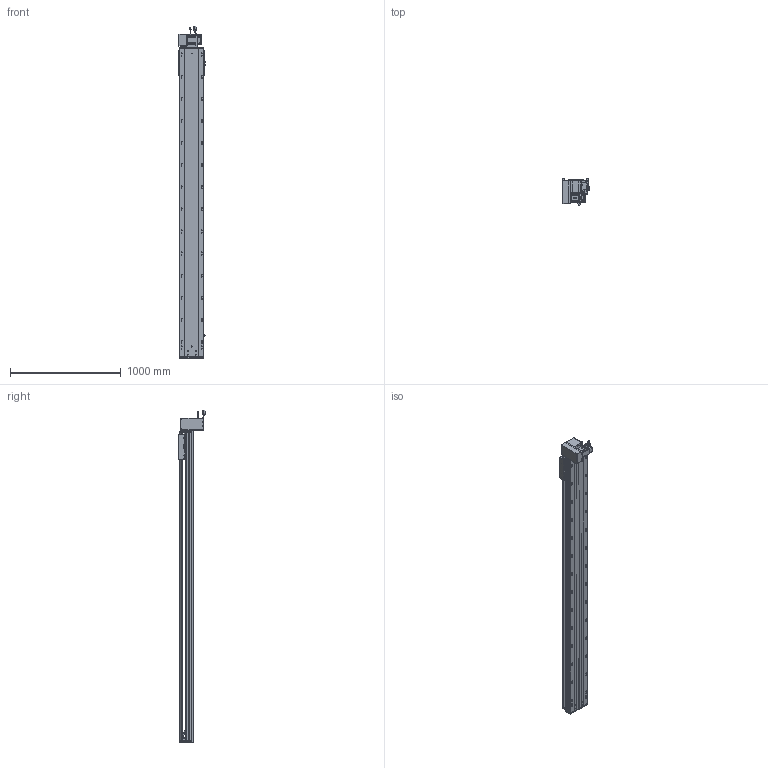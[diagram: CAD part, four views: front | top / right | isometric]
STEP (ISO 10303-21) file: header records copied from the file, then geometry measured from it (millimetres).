
FILE_DESCRIPTION (( 'STEP AP203' ), '1' );
FILE_NAME ('RY220-T-300-DL.SLDASM_2450.step', '2022-07-25T07:54:44', ( '' ), ( '' ), 'SwSTEP 2.0', 'SolidWorks 2016', '' );
FILE_SCHEMA (( 'CONFIG_CONTROL_DESIGN' ));
Length unit declared in the file: millimetre
Products named in the file (14): RY220翋肮祭謫釱; RY220-T-300-DL.SLDASM_2450; RY220-俋离672覜茼んえ; RY220-T菁釱-300_2450; 110A-T-肮祭謫釱傷裔; RY220翋肮祭謫裔啣; RY220-同步轮副支撑座6304×2; RY220-T-湍謫欶(鍼踢); RY220圉猾敕々湍臏賑輸; 滅袉蝶18-15; 覜茼ん672; 怢湛750W_ECMA-CX0807ES; RY220-T-300-奻裔啣_2450; RY220-T-蛌殏萇儂假蚾啣(750W)
Assembly tree (18 placements, depth 2):
  RY220-T-300-DL.SLDASM_2450
    RY220-T菁釱-300_2450
    RY220翋肮祭謫釱
    覜茼ん672  x3
    RY220圉猾敕々湍臏賑輸
    RY220-T-300-奻裔啣_2450
    RY220-俋离672覜茼んえ
    滅袉蝶18-15  x3
    RY220翋肮祭謫裔啣  x2
    110A-T-肮祭謫釱傷裔
    怢湛750W_ECMA-CX0807ES
    RY220-T-湍謫欶(鍼踢)
    RY220-T-蛌殏萇儂假蚾啣(750W)
    RY220-同步轮副支撑座6304×2
Bounding box: 239.7 x 240.74 x 3003.27 mm (x, y, z)
Volume: 21640523.3 mm3; surface area: 6639730.6 mm2
Topology: 19 solids, 19 shells, 2928 faces, 8099 edges, 5086 vertices
Faces by surface type: cylinder 1432, plane 1069, cone 345, bspline 56, sphere 16, torus 10
Entity records: 97683 total; most frequent: CARTESIAN_POINT 27637, ORIENTED_EDGE 14490, DIRECTION 13932, EDGE_CURVE 7245, AXIS2_PLACEMENT_3D 5010, VERTEX_POINT 4710, LINE 3912, VECTOR 3912
